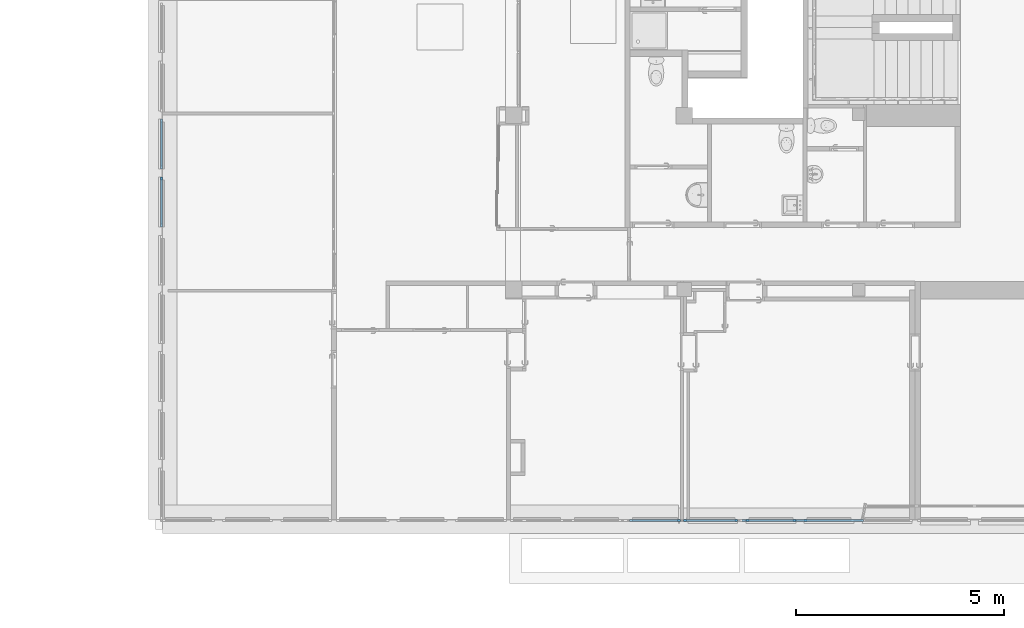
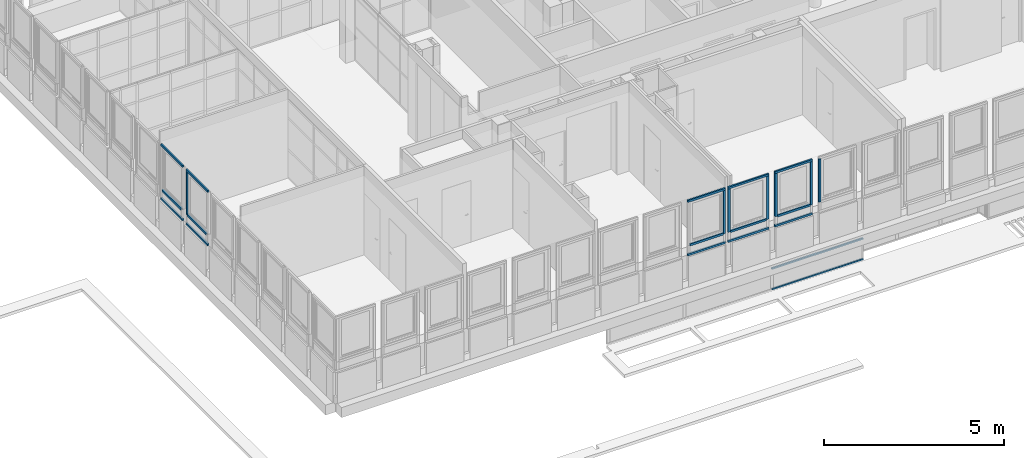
# One storey, part 5 of 97: 24 members, 7 elements without a shape of their own.
"""IFC4 building model written with IfcOpenShell, lengths in metres."""

from ifc_helpers import new_model, entity, si_unit, converted_unit, derived_unit, direction, frame, origin, place, context, subcontext, project, spatial, indexed_curve, outline, extrude, source, transform, mapped, material, type_object, type_shapes, element, aggregate, save


model = new_model("IFC4")

# Units and contexts
model_context = context("Model", 3, precision=1e-05, world=origin(), true_north=direction((6.12303176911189e-17, 1.0)))
body_context = subcontext(model_context, "Body", "Model", "MODEL_VIEW")
ifc_project = project(units=[si_unit("LENGTHUNIT", "METRE"), si_unit("AREAUNIT", "SQUARE_METRE"), si_unit("VOLUMEUNIT", "CUBIC_METRE"), converted_unit("PLANEANGLEUNIT", "DEGREE", entity("IfcRatioMeasure", 0.0174532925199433), si_unit("PLANEANGLEUNIT", "RADIAN"), dimensions=[0, 0, 0, 0, 0, 0, 0]), si_unit("MASSUNIT", "GRAM", prefix="KILO"), derived_unit("MASSDENSITYUNIT", [(si_unit("MASSUNIT", "GRAM", prefix="KILO"), 1), (si_unit("LENGTHUNIT", "METRE"), -3)]), derived_unit("MOMENTOFINERTIAUNIT", [(si_unit("LENGTHUNIT", "METRE"), 4)]), si_unit("TIMEUNIT", "SECOND"), si_unit("FREQUENCYUNIT", "HERTZ"), si_unit("THERMODYNAMICTEMPERATUREUNIT", "DEGREE_CELSIUS"), derived_unit("THERMALTRANSMITTANCEUNIT", [(si_unit("MASSUNIT", "GRAM", prefix="KILO"), 1), (si_unit("THERMODYNAMICTEMPERATUREUNIT", "KELVIN"), -1), (si_unit("TIMEUNIT", "SECOND"), -3)]), derived_unit("VOLUMETRICFLOWRATEUNIT", [(si_unit("LENGTHUNIT", "METRE"), 3), (si_unit("TIMEUNIT", "SECOND"), -1)]), si_unit("ELECTRICCURRENTUNIT", "AMPERE"), si_unit("ELECTRICVOLTAGEUNIT", "VOLT"), si_unit("POWERUNIT", "WATT"), si_unit("FORCEUNIT", "NEWTON", prefix="KILO"), si_unit("ILLUMINANCEUNIT", "LUX"), si_unit("LUMINOUSFLUXUNIT", "LUMEN"), si_unit("LUMINOUSINTENSITYUNIT", "CANDELA"), derived_unit("USERDEFINED", [(si_unit("MASSUNIT", "GRAM", prefix="KILO"), -1), (si_unit("LENGTHUNIT", "METRE"), -2), (si_unit("TIMEUNIT", "SECOND"), 3), (si_unit("LUMINOUSFLUXUNIT", "LUMEN"), 1)]), derived_unit("LINEARVELOCITYUNIT", [(si_unit("LENGTHUNIT", "METRE"), 1), (si_unit("TIMEUNIT", "SECOND"), -1)]), si_unit("PRESSUREUNIT", "PASCAL"), derived_unit("USERDEFINED", [(si_unit("LENGTHUNIT", "METRE"), -2), (si_unit("MASSUNIT", "GRAM", prefix="KILO"), 1), (si_unit("TIMEUNIT", "SECOND"), -2)]), derived_unit("LINEARFORCEUNIT", [(si_unit("MASSUNIT", "GRAM", prefix="KILO"), 1), (si_unit("LENGTHUNIT", "METRE"), 1), (si_unit("TIMEUNIT", "SECOND"), -2), (si_unit("LENGTHUNIT", "METRE"), -1)]), derived_unit("PLANARFORCEUNIT", [(si_unit("MASSUNIT", "GRAM", prefix="KILO"), 1), (si_unit("LENGTHUNIT", "METRE"), 1), (si_unit("TIMEUNIT", "SECOND"), -2), (si_unit("LENGTHUNIT", "METRE"), -2)])], contexts=[model_context])

# Site, building, storey
site_placement = place(None, origin())
site = spatial("IfcSite", under=ifc_project, at=site_placement, Name="Default", CompositionType="ELEMENT")
building_placement = place(site_placement, origin())
building = spatial("IfcBuilding", under=site, at=building_placement, Name="HOTEL CONSULAIRE BOULOGNE SUR MER", CompositionType="ELEMENT")
storey_placement = place(building_placement, frame((0.0, 0.0, 3.62152697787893)))
storey = spatial("IfcBuildingStorey", under=building, at=storey_placement, Name="Niveau 1", CompositionType="ELEMENT", Elevation=3.62152697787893)

# Curtain wall, members
curtain_wall_type = type_object("IfcCurtainWallType", Name="Mur-rideau:Simple panneau", PredefinedType="NOTDEFINED")
curtain_wall_1_placement = place(storey_placement, frame((0.0, 0.0, -3.62152697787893)))
curtain_wall_1 = element("IfcCurtainWall", 1, at=curtain_wall_1_placement, inside=storey, type_object=curtain_wall_type, Name="Mur-rideau:Simple panneau", ObjectType="Mur-rideau:Simple panneau", PredefinedType="NOTDEFINED")
ifc_material = material(Name="PVC - Blanc", Category="Plastique")
member_type_1 = type_object("IfcMemberType", Name="Meneau rectangulaire:50 x 25mm", PredefinedType="MULLION", material=ifc_material)
shared_shape_1 = source(origin(), body_context, "Body", "SweptSolid", [
    extrude(outline(indexed_curve([(-0.025, -0.025), (0.025, -0.025), (0.025, 0.025), (-0.025, 0.025), (-0.025, -0.025)], self_intersect=False)), frame((-0.025, -0.025, -2.925), z_axis=(0.0, 0.0, 1.0), x_axis=(0.0, -1.0, 0.0)), (0.0, 0.0, 1.0), 2.925),
])
type_shapes(member_type_1, [shared_shape_1])
member_1_placement = place(storey_placement, frame((3.08622682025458, -29.5510671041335, -1.3055269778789), z_axis=(1.0, 0.0, 0.0), x_axis=(0.0, 0.0, -1.0)))
member_1 = element("IfcMember", 2, at=member_1_placement, type_object=member_type_1, material=ifc_material, Name="Meneau rectangulaire:50 x 25mm", ObjectType="Meneau rectangulaire:50 x 25mm", PredefinedType="MULLION", context=body_context, shape_type="MappedRepresentation", body=[
    mapped(shared_shape_1, transform((0.0, 0.0, 0.0), scale=1.0)),
])
member_type_2 = type_object("IfcMemberType", Name="Meneau rectangulaire:50 x 25mm", PredefinedType="MULLION", material=ifc_material)
shared_shape_2 = source(origin(), body_context, "Body", "SweptSolid", [
    extrude(outline(indexed_curve([(-0.025, -0.025), (0.025, -0.025), (0.025, 0.025), (-0.025, 0.025), (-0.025, -0.025)], self_intersect=False)), frame((-0.025, -0.025, -2.925), z_axis=(0.0, 0.0, 1.0), x_axis=(0.0, -1.0, 0.0)), (0.0, 0.0, 1.0), 2.925),
])
type_shapes(member_type_2, [shared_shape_2])
member_2_placement = place(storey_placement, frame((0.16122682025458, -29.5510671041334, -0.56300000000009), z_axis=(-1.0, 0.0, 0.0), x_axis=(0.0, 0.0, 1.0)))
member_2 = element("IfcMember", 3, at=member_2_placement, type_object=member_type_2, material=ifc_material, Name="Meneau rectangulaire:50 x 25mm", ObjectType="Meneau rectangulaire:50 x 25mm", PredefinedType="MULLION", context=body_context, shape_type="MappedRepresentation", body=[
    mapped(shared_shape_2, transform((0.0, 0.0, 0.0), scale=1.0)),
])
aggregate(curtain_wall_1, [member_1, member_2])

# Curtain wall, member
curtain_wall_2_placement = place(storey_placement, frame((0.0, 0.0, -3.62152697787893)))
curtain_wall_2 = element("IfcCurtainWall", 4, at=curtain_wall_2_placement, inside=storey, type_object=curtain_wall_type, Name="Mur-rideau:Simple panneau", ObjectType="Mur-rideau:Simple panneau", PredefinedType="NOTDEFINED")
member_type_3 = type_object("IfcMemberType", Name="Meneau rectangulaire:50 x 35", PredefinedType="MULLION", material=ifc_material)
shared_shape_3 = source(origin(), body_context, "Body", "SweptSolid", [
    extrude(outline(indexed_curve([(-0.025, -0.035), (0.025, -0.035), (0.025, 0.035), (-0.025, 0.035), (-0.025, -0.035)], self_intersect=False)), frame((-0.035, -0.025, -1.20000000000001), z_axis=(0.0, 0.0, 1.0), x_axis=(0.0, -1.0, 0.0)), (0.0, 0.0, 1.0), 1.20000000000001),
])
type_shapes(member_type_3, [shared_shape_3])
member_3_placement = place(storey_placement, frame((0.258580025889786, -29.5501047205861, 2.67047302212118), z_axis=(-1.0, 0.0, 0.0), x_axis=(0.0, 0.0, 1.0)))
member_3 = element("IfcMember", 5, at=member_3_placement, type_object=member_type_3, material=ifc_material, Name="Meneau rectangulaire:50 x 35", ObjectType="Meneau rectangulaire:50 x 35", PredefinedType="MULLION", context=body_context, shape_type="MappedRepresentation", body=[
    mapped(shared_shape_3, transform((0.0, 0.0, 0.0), scale=1.0)),
])

curtain_wall_3_placement = place(storey_placement, frame((0.0, 0.0, -3.62152697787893)))
curtain_wall_3 = element("IfcCurtainWall", 6, at=curtain_wall_3_placement, inside=storey, type_object=curtain_wall_type, Name="Mur-rideau:Simple panneau", ObjectType="Mur-rideau:Simple panneau", PredefinedType="NOTDEFINED")
member_type_4 = type_object("IfcMemberType", Name="Meneau rectangulaire:50 x 35", PredefinedType="MULLION", material=ifc_material)
shared_shape_4 = source(origin(), body_context, "Body", "SweptSolid", [
    extrude(outline(indexed_curve([(-0.025, -0.035), (0.025, -0.035), (0.025, 0.035), (-0.025, 0.035), (-0.025, -0.035)], self_intersect=False)), frame((-0.035, -0.025, -1.20000000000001), z_axis=(0.0, 0.0, 1.0), x_axis=(0.0, -1.0, 0.0)), (0.0, 0.0, 1.0), 1.20000000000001),
])
type_shapes(member_type_4, [shared_shape_4])
member_4_placement = place(storey_placement, frame((-13.7870998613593, -21.1114499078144, 0.791612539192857), z_axis=(0.0, -1.0, 0.0), x_axis=(0.0, 0.0, -1.0)))
member_4 = element("IfcMember", 7, at=member_4_placement, type_object=member_type_4, material=ifc_material, Name="Meneau rectangulaire:50 x 35", ObjectType="Meneau rectangulaire:50 x 35", PredefinedType="MULLION", context=body_context, shape_type="MappedRepresentation", body=[
    mapped(shared_shape_4, transform((0.0, 0.0, 0.0), scale=1.0)),
])

curtain_wall_4_placement = place(storey_placement, frame((0.0, 0.0, -3.62152697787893)))
curtain_wall_4 = element("IfcCurtainWall", 8, at=curtain_wall_4_placement, inside=storey, type_object=curtain_wall_type, Name="Mur-rideau:Simple panneau", ObjectType="Mur-rideau:Simple panneau", PredefinedType="NOTDEFINED")
member_5_placement = place(storey_placement, frame((-13.7870998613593, -22.5114499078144, 0.791612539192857), z_axis=(0.0, -1.0, 0.0), x_axis=(0.0, 0.0, -1.0)))
member_5 = element("IfcMember", 9, at=member_5_placement, type_object=member_type_4, material=ifc_material, Name="Meneau rectangulaire:50 x 35", ObjectType="Meneau rectangulaire:50 x 35", PredefinedType="MULLION", context=body_context, shape_type="MappedRepresentation", body=[
    mapped(shared_shape_4, transform((0.0, 0.0, 0.0), scale=1.0)),
])

# Member
member_6_placement = place(storey_placement, frame((1.45858002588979, -29.5501047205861, 0.791612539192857), z_axis=(1.0, 0.0, 0.0), x_axis=(0.0, 0.0, -1.0)))
member_6 = element("IfcMember", 10, at=member_6_placement, type_object=member_type_4, material=ifc_material, Name="Meneau rectangulaire:50 x 35", ObjectType="Meneau rectangulaire:50 x 35", PredefinedType="MULLION", context=body_context, shape_type="MappedRepresentation", body=[
    mapped(shared_shape_4, transform((0.0, 0.0, 0.0), scale=1.0)),
])

member_type_5 = type_object("IfcMemberType", Name="Meneau rectangulaire:50 x 35", PredefinedType="MULLION", material=ifc_material)
shared_shape_5 = source(origin(), body_context, "Body", "SweptSolid", [
    extrude(outline(indexed_curve([(-0.025, -0.035), (0.025, -0.035), (0.025, 0.035), (-0.025, 0.035), (-0.025, -0.035)], self_intersect=False)), frame((0.0, -0.025, -1.06000000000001), z_axis=(0.0, 0.0, 1.0), x_axis=(0.0, -1.0, 0.0)), (0.0, 0.0, 1.0), 1.06000000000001),
])
type_shapes(member_type_5, [shared_shape_5])
member_7_placement = place(storey_placement, frame((-13.7870998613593, -19.9814499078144, 1.13961253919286), z_axis=(0.0, 1.0, 0.0), x_axis=(0.0, 0.0, 1.0)))
member_7 = element("IfcMember", 11, at=member_7_placement, type_object=member_type_5, material=ifc_material, Name="Meneau rectangulaire:50 x 35", ObjectType="Meneau rectangulaire:50 x 35", PredefinedType="MULLION", context=body_context, shape_type="MappedRepresentation", body=[
    mapped(shared_shape_5, transform((0.0, 0.0, 0.0), scale=1.0)),
])

member_8_placement = place(storey_placement, frame((-13.7870998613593, -21.3814499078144, 1.13961253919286), z_axis=(0.0, 1.0, 0.0), x_axis=(0.0, 0.0, 1.0)))
member_8 = element("IfcMember", 12, at=member_8_placement, type_object=member_type_5, material=ifc_material, Name="Meneau rectangulaire:50 x 35", ObjectType="Meneau rectangulaire:50 x 35", PredefinedType="MULLION", context=body_context, shape_type="MappedRepresentation", body=[
    mapped(shared_shape_5, transform((0.0, 0.0, 0.0), scale=1.0)),
])

member_9_placement = place(storey_placement, frame((0.328580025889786, -29.5501047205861, 1.13961253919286), z_axis=(-1.0, 0.0, 0.0), x_axis=(0.0, 0.0, 1.0)))
member_9 = element("IfcMember", 13, at=member_9_placement, type_object=member_type_5, material=ifc_material, Name="Meneau rectangulaire:50 x 35", ObjectType="Meneau rectangulaire:50 x 35", PredefinedType="MULLION", context=body_context, shape_type="MappedRepresentation", body=[
    mapped(shared_shape_5, transform((0.0, 0.0, 0.0), scale=1.0)),
])

member_type_6 = type_object("IfcMemberType", Name="Meneau rectangulaire:50 x 35", PredefinedType="MULLION", material=ifc_material)
shared_shape_6 = source(origin(), body_context, "Body", "SweptSolid", [
    extrude(outline(indexed_curve([(-0.025, -0.035), (0.025, -0.035), (0.025, 0.035), (-0.025, 0.035), (-0.025, -0.035)], self_intersect=False)), frame((-0.035, -0.025, -1.46086048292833), z_axis=(0.0, 0.0, 1.0), x_axis=(0.0, -1.0, 0.0)), (0.0, 0.0, 1.0), 1.46086048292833),
])
type_shapes(member_type_6, [shared_shape_6])
member_10_placement = place(storey_placement, frame((-13.7870998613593, -21.3114499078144, 1.13961253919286), z_axis=(0.0, 0.0, -1.0), x_axis=(0.0, 1.0, 0.0)))
member_10 = element("IfcMember", 14, at=member_10_placement, type_object=member_type_6, material=ifc_material, Name="Meneau rectangulaire:50 x 35", ObjectType="Meneau rectangulaire:50 x 35", PredefinedType="MULLION", context=body_context, shape_type="MappedRepresentation", body=[
    mapped(shared_shape_6, transform((0.0, 0.0, 0.0), scale=1.0)),
])

# Curtain wall, member
curtain_wall_5_placement = place(storey_placement, frame((0.0, 0.0, -3.62152697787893)))
curtain_wall_5 = element("IfcCurtainWall", 15, at=curtain_wall_5_placement, inside=storey, type_object=curtain_wall_type, Name="Mur-rideau:Simple panneau", ObjectType="Mur-rideau:Simple panneau", PredefinedType="NOTDEFINED")
member_11_placement = place(storey_placement, frame((-1.24414453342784, -29.5501047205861, 1.13961253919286), z_axis=(0.0, 0.0, -1.0), x_axis=(-1.0, 0.0, 0.0)))
member_11 = element("IfcMember", 16, at=member_11_placement, type_object=member_type_6, material=ifc_material, Name="Meneau rectangulaire:50 x 35", ObjectType="Meneau rectangulaire:50 x 35", PredefinedType="MULLION", context=body_context, shape_type="MappedRepresentation", body=[
    mapped(shared_shape_6, transform((0.0, 0.0, 0.0), scale=1.0)),
])

# Member
member_12_placement = place(storey_placement, frame((0.258580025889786, -29.5501047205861, 1.13961253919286), z_axis=(0.0, 0.0, -1.0), x_axis=(-1.0, 0.0, 0.0)))
member_12 = element("IfcMember", 17, at=member_12_placement, type_object=member_type_6, material=ifc_material, Name="Meneau rectangulaire:50 x 35", ObjectType="Meneau rectangulaire:50 x 35", PredefinedType="MULLION", context=body_context, shape_type="MappedRepresentation", body=[
    mapped(shared_shape_6, transform((0.0, 0.0, 0.0), scale=1.0)),
])

# Curtain wall, member
curtain_wall_6_placement = place(storey_placement, frame((0.0, 0.0, -3.62152697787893)))
curtain_wall_6 = element("IfcCurtainWall", 18, at=curtain_wall_6_placement, inside=storey, type_object=curtain_wall_type, Name="Mur-rideau:Simple panneau", ObjectType="Mur-rideau:Simple panneau", PredefinedType="NOTDEFINED")
member_13_placement = place(storey_placement, frame((1.65858002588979, -29.5501047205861, 1.13961253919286), z_axis=(0.0, 0.0, -1.0), x_axis=(-1.0, 0.0, 0.0)))
member_13 = element("IfcMember", 19, at=member_13_placement, type_object=member_type_6, material=ifc_material, Name="Meneau rectangulaire:50 x 35", ObjectType="Meneau rectangulaire:50 x 35", PredefinedType="MULLION", context=body_context, shape_type="MappedRepresentation", body=[
    mapped(shared_shape_6, transform((0.0, 0.0, 0.0), scale=1.0)),
])
aggregate(curtain_wall_6, [member_13])

# Member
member_type_7 = type_object("IfcMemberType", Name="Meneau rectangulaire:50 x 35", PredefinedType="MULLION", material=ifc_material)
shared_shape_7 = source(origin(), body_context, "Body", "SweptSolid", [
    extrude(outline(indexed_curve([(-0.025, -0.035), (0.025, -0.035), (0.025, 0.035), (-0.025, 0.035), (-0.025, -0.035)], self_intersect=False)), frame((-0.035, -0.025, -1.20000000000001), z_axis=(0.0, 0.0, 1.0), x_axis=(0.0, -1.0, 0.0)), (0.0, 0.0, 1.0), 1.20000000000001),
])
type_shapes(member_type_7, [shared_shape_7])
member_14_placement = place(storey_placement, frame((-13.7870998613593, -19.9114499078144, 2.67047302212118), z_axis=(0.0, 1.0, 0.0), x_axis=(0.0, 0.0, 1.0)))
member_14 = element("IfcMember", 20, at=member_14_placement, type_object=member_type_7, material=ifc_material, Name="Meneau rectangulaire:50 x 35", ObjectType="Meneau rectangulaire:50 x 35", PredefinedType="MULLION", context=body_context, shape_type="MappedRepresentation", body=[
    mapped(shared_shape_7, transform((0.0, 0.0, 0.0), scale=1.0)),
])

aggregate(curtain_wall_3, [member_14, member_4, member_7])

member_15_placement = place(storey_placement, frame((-13.7870998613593, -21.3114499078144, 2.67047302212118), z_axis=(0.0, 1.0, 0.0), x_axis=(0.0, 0.0, 1.0)))
member_15 = element("IfcMember", 21, at=member_15_placement, type_object=member_type_7, material=ifc_material, Name="Meneau rectangulaire:50 x 35", ObjectType="Meneau rectangulaire:50 x 35", PredefinedType="MULLION", context=body_context, shape_type="MappedRepresentation", body=[
    mapped(shared_shape_7, transform((0.0, 0.0, 0.0), scale=1.0)),
])

aggregate(curtain_wall_4, [member_15, member_5, member_8, member_10])

# Curtain wall, member
curtain_wall_7_placement = place(storey_placement, frame((0.0, 0.0, -3.62152697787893)))
curtain_wall_7 = element("IfcCurtainWall", 22, at=curtain_wall_7_placement, inside=storey, type_object=curtain_wall_type, Name="Mur-rideau:Simple panneau", ObjectType="Mur-rideau:Simple panneau", PredefinedType="NOTDEFINED")
member_type_8 = type_object("IfcMemberType", Name="Meneau rectangulaire:50 x 35", PredefinedType="MULLION", material=ifc_material)
shared_shape_8 = source(origin(), body_context, "Body", "SweptSolid", [
    extrude(outline(indexed_curve([(-0.025, -0.035), (0.025, -0.035), (0.025, 0.035), (-0.025, 0.035), (-0.025, -0.035)], self_intersect=False)), frame((-0.035, -0.025, -1.46086048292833), z_axis=(0.0, 0.0, 1.0), x_axis=(0.0, -1.0, 0.0)), (0.0, 0.0, 1.0), 1.46086048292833),
])
type_shapes(member_type_8, [shared_shape_8])
member_16_placement = place(storey_placement, frame((-1.32414453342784, -29.5501047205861, 2.60047302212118)))
member_16 = element("IfcMember", 23, at=member_16_placement, type_object=member_type_8, material=ifc_material, Name="Meneau rectangulaire:50 x 35", ObjectType="Meneau rectangulaire:50 x 35", PredefinedType="MULLION", context=body_context, shape_type="MappedRepresentation", body=[
    mapped(shared_shape_8, transform((0.0, 0.0, 0.0), scale=1.0)),
])

# Member
member_17_placement = place(storey_placement, frame((0.0585800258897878, -29.5501047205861, 2.60047302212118)))
member_17 = element("IfcMember", 24, at=member_17_placement, type_object=member_type_8, material=ifc_material, Name="Meneau rectangulaire:50 x 35", ObjectType="Meneau rectangulaire:50 x 35", PredefinedType="MULLION", context=body_context, shape_type="MappedRepresentation", body=[
    mapped(shared_shape_8, transform((0.0, 0.0, 0.0), scale=1.0)),
])

member_18_placement = place(storey_placement, frame((1.45858002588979, -29.5501047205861, 2.60047302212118)))
member_18 = element("IfcMember", 25, at=member_18_placement, type_object=member_type_8, material=ifc_material, Name="Meneau rectangulaire:50 x 35", ObjectType="Meneau rectangulaire:50 x 35", PredefinedType="MULLION", context=body_context, shape_type="MappedRepresentation", body=[
    mapped(shared_shape_8, transform((0.0, 0.0, 0.0), scale=1.0)),
])

aggregate(curtain_wall_2, [member_18, member_3, member_6, member_9, member_12])

member_type_9 = type_object("IfcMemberType", Name="Meneau rectangulaire:50 x 35", PredefinedType="MULLION", material=ifc_material)
shared_shape_9 = source(origin(), body_context, "Body", "SweptSolid", [
    extrude(outline(indexed_curve([(-0.025, -0.035), (0.025, -0.035), (0.025, 0.035), (-0.025, 0.035), (-0.025, -0.035)], self_intersect=False)), frame((-0.035, -0.025, -1.21727544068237), z_axis=(0.0, 0.0, 1.0), x_axis=(0.0, -1.0, 0.0)), (0.0, 0.0, 1.0), 1.21727544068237),
])
type_shapes(member_type_9, [shared_shape_9])
member_19_placement = place(storey_placement, frame((-2.54141997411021, -29.5501047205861, 2.67047302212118), z_axis=(-1.0, 0.0, 0.0), x_axis=(0.0, 0.0, 1.0)))
member_19 = element("IfcMember", 26, at=member_19_placement, type_object=member_type_9, material=ifc_material, Name="Meneau rectangulaire:50 x 35", ObjectType="Meneau rectangulaire:50 x 35", PredefinedType="MULLION", context=body_context, shape_type="MappedRepresentation", body=[
    mapped(shared_shape_9, transform((0.0, 0.0, 0.0), scale=1.0)),
])

member_type_10 = type_object("IfcMemberType", Name="Meneau rectangulaire:50 x 35", PredefinedType="MULLION", material=ifc_material)
shared_shape_10 = source(origin(), body_context, "Body", "SweptSolid", [
    extrude(outline(indexed_curve([(-0.025, -0.035), (0.025, -0.035), (0.025, 0.035), (-0.025, 0.035), (-0.025, -0.035)], self_intersect=False)), frame((-0.035, -0.025, -1.21727544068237), z_axis=(0.0, 0.0, 1.0), x_axis=(0.0, -1.0, 0.0)), (0.0, 0.0, 1.0), 1.21727544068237),
])
type_shapes(member_type_10, [shared_shape_10])
member_20_placement = place(storey_placement, frame((-1.32414453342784, -29.5501047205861, 0.791612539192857), z_axis=(1.0, 0.0, 0.0), x_axis=(0.0, 0.0, -1.0)))
member_20 = element("IfcMember", 27, at=member_20_placement, type_object=member_type_10, material=ifc_material, Name="Meneau rectangulaire:50 x 35", ObjectType="Meneau rectangulaire:50 x 35", PredefinedType="MULLION", context=body_context, shape_type="MappedRepresentation", body=[
    mapped(shared_shape_10, transform((0.0, 0.0, 0.0), scale=1.0)),
])

member_type_11 = type_object("IfcMemberType", Name="Meneau rectangulaire:50 x 35", PredefinedType="MULLION", material=ifc_material)
shared_shape_11 = source(origin(), body_context, "Body", "SweptSolid", [
    extrude(outline(indexed_curve([(-0.025, -0.035), (0.025, -0.035), (0.025, 0.035), (-0.025, 0.035), (-0.025, -0.035)], self_intersect=False)), frame((0.0, -0.025, -1.07727544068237), z_axis=(0.0, 0.0, 1.0), x_axis=(0.0, -1.0, 0.0)), (0.0, 0.0, 1.0), 1.07727544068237),
])
type_shapes(member_type_11, [shared_shape_11])
member_21_placement = place(storey_placement, frame((-2.47141997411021, -29.5501047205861, 1.13961253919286), z_axis=(-1.0, 0.0, 0.0), x_axis=(0.0, 0.0, 1.0)))
member_21 = element("IfcMember", 28, at=member_21_placement, type_object=member_type_11, material=ifc_material, Name="Meneau rectangulaire:50 x 35", ObjectType="Meneau rectangulaire:50 x 35", PredefinedType="MULLION", context=body_context, shape_type="MappedRepresentation", body=[
    mapped(shared_shape_11, transform((0.0, 0.0, 0.0), scale=1.0)),
])

aggregate(curtain_wall_7, [member_16, member_19, member_20, member_21])

member_type_12 = type_object("IfcMemberType", Name="Meneau rectangulaire:50 x 35", PredefinedType="MULLION", material=ifc_material)
shared_shape_12 = source(origin(), body_context, "Body", "SweptSolid", [
    extrude(outline(indexed_curve([(-0.025, -0.035), (0.025, -0.035), (0.025, 0.035), (-0.025, 0.035), (-0.025, -0.035)], self_intersect=False)), frame((-0.035, -0.025, -1.30272455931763), z_axis=(0.0, 0.0, 1.0), x_axis=(0.0, -1.0, 0.0)), (0.0, 0.0, 1.0), 1.30272455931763),
])
type_shapes(member_type_12, [shared_shape_12])
member_22_placement = place(storey_placement, frame((-1.24414453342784, -29.5501047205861, 2.67047302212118), z_axis=(-1.0, 0.0, 0.0), x_axis=(0.0, 0.0, 1.0)))
member_22 = element("IfcMember", 29, at=member_22_placement, type_object=member_type_12, material=ifc_material, Name="Meneau rectangulaire:50 x 35", ObjectType="Meneau rectangulaire:50 x 35", PredefinedType="MULLION", context=body_context, shape_type="MappedRepresentation", body=[
    mapped(shared_shape_12, transform((0.0, 0.0, 0.0), scale=1.0)),
])

member_type_13 = type_object("IfcMemberType", Name="Meneau rectangulaire:50 x 35", PredefinedType="MULLION", material=ifc_material)
shared_shape_13 = source(origin(), body_context, "Body", "SweptSolid", [
    extrude(outline(indexed_curve([(-0.025, -0.035), (0.025, -0.035), (0.025, 0.035), (-0.025, 0.035), (-0.025, -0.035)], self_intersect=False)), frame((-0.035, -0.025, -1.30272455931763), z_axis=(0.0, 0.0, 1.0), x_axis=(0.0, -1.0, 0.0)), (0.0, 0.0, 1.0), 1.30272455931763),
])
type_shapes(member_type_13, [shared_shape_13])
member_23_placement = place(storey_placement, frame((0.0585800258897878, -29.5501047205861, 0.791612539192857), z_axis=(1.0, 0.0, 0.0), x_axis=(0.0, 0.0, -1.0)))
member_23 = element("IfcMember", 30, at=member_23_placement, type_object=member_type_13, material=ifc_material, Name="Meneau rectangulaire:50 x 35", ObjectType="Meneau rectangulaire:50 x 35", PredefinedType="MULLION", context=body_context, shape_type="MappedRepresentation", body=[
    mapped(shared_shape_13, transform((0.0, 0.0, 0.0), scale=1.0)),
])

member_type_14 = type_object("IfcMemberType", Name="Meneau rectangulaire:50 x 35", PredefinedType="MULLION", material=ifc_material)
shared_shape_14 = source(origin(), body_context, "Body", "SweptSolid", [
    extrude(outline(indexed_curve([(-0.025, -0.035), (0.025, -0.035), (0.025, 0.035), (-0.025, 0.035), (-0.025, -0.035)], self_intersect=False)), frame((0.0, -0.025, -1.16272455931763), z_axis=(0.0, 0.0, 1.0), x_axis=(0.0, -1.0, 0.0)), (0.0, 0.0, 1.0), 1.16272455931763),
])
type_shapes(member_type_14, [shared_shape_14])
member_24_placement = place(storey_placement, frame((-1.17414453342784, -29.5501047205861, 1.13961253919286), z_axis=(-1.0, 0.0, 0.0), x_axis=(0.0, 0.0, 1.0)))
member_24 = element("IfcMember", 31, at=member_24_placement, type_object=member_type_14, material=ifc_material, Name="Meneau rectangulaire:50 x 35", ObjectType="Meneau rectangulaire:50 x 35", PredefinedType="MULLION", context=body_context, shape_type="MappedRepresentation", body=[
    mapped(shared_shape_14, transform((0.0, 0.0, 0.0), scale=1.0)),
])

aggregate(curtain_wall_5, [member_17, member_22, member_23, member_24, member_11])

save(model, "model.ifc")
